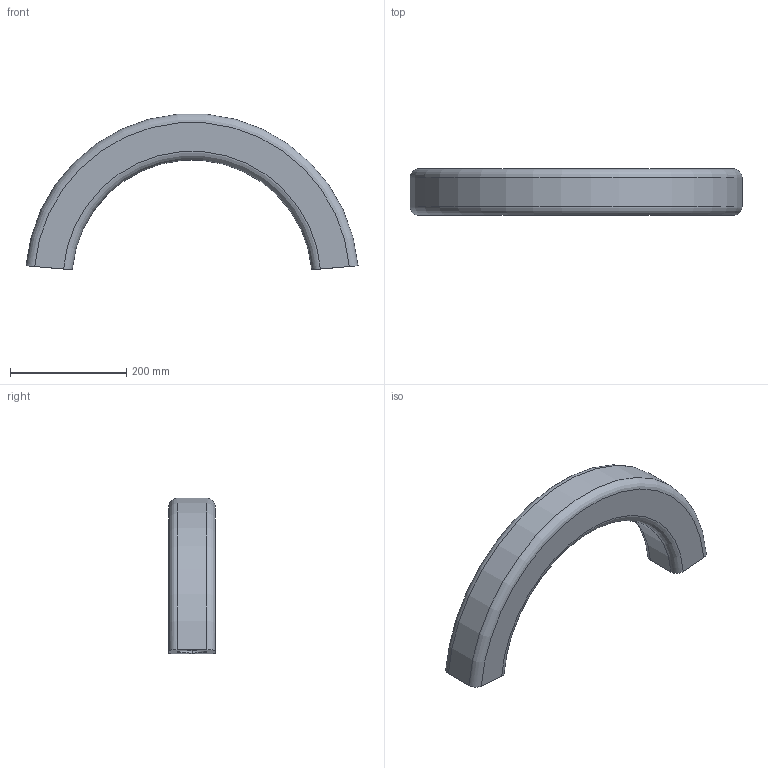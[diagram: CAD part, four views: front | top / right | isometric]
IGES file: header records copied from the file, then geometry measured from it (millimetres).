
Start section:  PTC IGES file: sweep_mesh_example01.igs
Global section: file name: sweep_mesh_example01.igs; native system: Pro/ENGINEER by Parametric Technology Corporation; preprocessor: 2004150; author: cadsoft; organization: Unknown; date: 070228.154858; units: millimetre
Bounding box: 570.66 x 80 x 267.44 mm (x, y, z)
Volume: 3087277.6 mm3; surface area: 338393.1 mm2
Topology: 1 solids, 1 shells, 12 faces, 30 edges, 20 vertices
Faces by surface type: revolution 8, bspline 4
